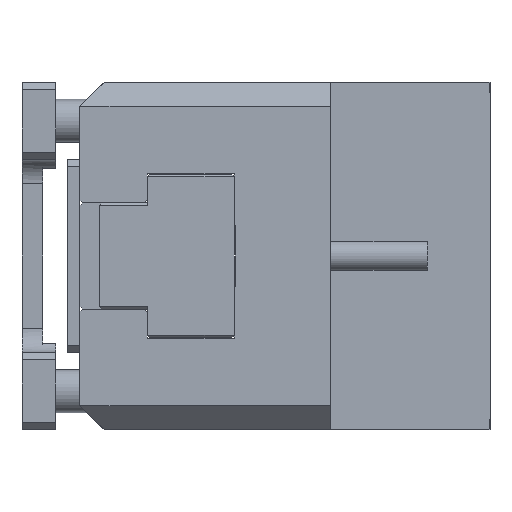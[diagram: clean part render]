
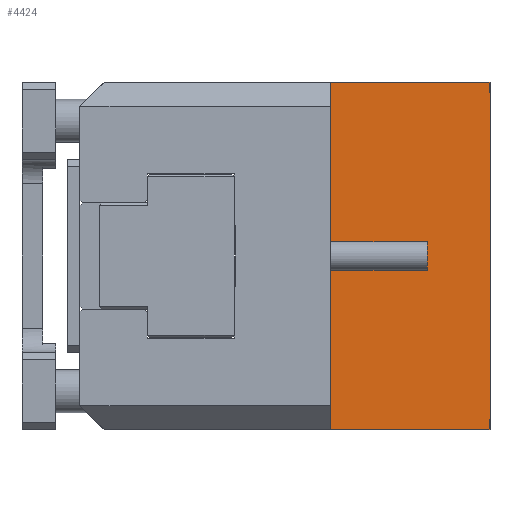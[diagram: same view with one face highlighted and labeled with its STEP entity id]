
A CAD part, left-side view. The second image highlights one B-rep face of the part: STEP entity #4424.
In plain terms, the highlighted planar face has unit normal (-1, 0, 0).
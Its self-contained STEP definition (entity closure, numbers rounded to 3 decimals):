
#13 = LINE ( 'NONE', #48742, #19065 ) ;
#327 = FACE_OUTER_BOUND ( 'NONE', #17880, .T. ) ;
#1472 = DIRECTION ( 'NONE',  ( 0., 0., -1. ) ) ;
#2422 = EDGE_CURVE ( 'NONE', #30147, #17952, #15047, .T. ) ;
#2876 = ORIENTED_EDGE ( 'NONE', *, *, #17224, .F. ) ;
#4424 = ADVANCED_FACE ( 'NONE', ( #327 ), #45915, .F. ) ;
#7776 = LINE ( 'NONE', #15157, #18588 ) ;
#7918 = EDGE_CURVE ( 'NONE', #17952, #23172, #7776, .T. ) ;
#12957 = ORIENTED_EDGE ( 'NONE', *, *, #2422, .T. ) ;
#13271 = DIRECTION ( 'NONE',  ( 0., 0., 1. ) ) ;
#14889 = CARTESIAN_POINT ( 'NONE',  ( -125., 0., -72. ) ) ;
#15047 = LINE ( 'NONE', #46283, #16334 ) ;
#15157 = CARTESIAN_POINT ( 'NONE',  ( -125., 66., -72. ) ) ;
#16334 = VECTOR ( 'NONE', #42032, 1000. ) ;
#17041 = ORIENTED_EDGE ( 'NONE', *, *, #44064, .T. ) ;
#17224 = EDGE_CURVE ( 'NONE', #30147, #18192, #13, .T. ) ;
#17880 = EDGE_LOOP ( 'NONE', ( #17041, #2876, #12957, #50286 ) ) ;
#17952 = VERTEX_POINT ( 'NONE', #19936 ) ;
#18192 = VERTEX_POINT ( 'NONE', #38499 ) ;
#18285 = VECTOR ( 'NONE', #13271, 1000. ) ;
#18588 = VECTOR ( 'NONE', #19231, 1000. ) ;
#19065 = VECTOR ( 'NONE', #20407, 1000. ) ;
#19231 = DIRECTION ( 'NONE',  ( 0., -1., 0. ) ) ;
#19936 = CARTESIAN_POINT ( 'NONE',  ( -125., 66., -72. ) ) ;
#20407 = DIRECTION ( 'NONE',  ( 0., -1., 0. ) ) ;
#23172 = VERTEX_POINT ( 'NONE', #14889 ) ;
#25777 = DIRECTION ( 'NONE',  ( 1., 0., 0. ) ) ;
#29985 = CARTESIAN_POINT ( 'NONE',  ( -125., 66., 72. ) ) ;
#30147 = VERTEX_POINT ( 'NONE', #29985 ) ;
#30338 = LINE ( 'NONE', #37515, #18285 ) ;
#37515 = CARTESIAN_POINT ( 'NONE',  ( -125., 0., 72. ) ) ;
#37589 = AXIS2_PLACEMENT_3D ( 'NONE', #37799, #25777, #1472 ) ;
#37799 = CARTESIAN_POINT ( 'NONE',  ( -125., 66., 72. ) ) ;
#38499 = CARTESIAN_POINT ( 'NONE',  ( -125., 0., 72. ) ) ;
#42032 = DIRECTION ( 'NONE',  ( 0., 0., -1. ) ) ;
#44064 = EDGE_CURVE ( 'NONE', #23172, #18192, #30338, .T. ) ;
#45915 = PLANE ( 'NONE',  #37589 ) ;
#46283 = CARTESIAN_POINT ( 'NONE',  ( -125., 66., 72. ) ) ;
#48742 = CARTESIAN_POINT ( 'NONE',  ( -125., 66., 72. ) ) ;
#50286 = ORIENTED_EDGE ( 'NONE', *, *, #7918, .T. ) ;
